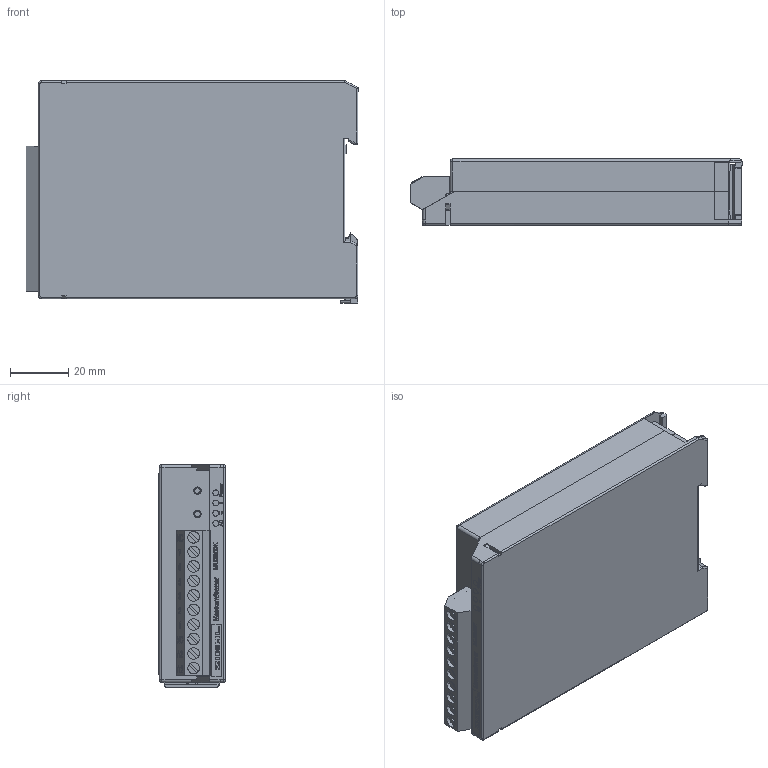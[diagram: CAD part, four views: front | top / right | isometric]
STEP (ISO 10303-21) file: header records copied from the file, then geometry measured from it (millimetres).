
FILE_DESCRIPTION (( 'STEP AP214' ), '1' );
FILE_NAME ('12600-1901-02_3D.STEP', '2019-01-22T09:36:20', ( '' ), ( '' ), 'SwSTEP 2.0', 'SolidWorks 2018', '' );
FILE_SCHEMA (( 'AUTOMOTIVE_DESIGN' ));
Length unit declared in the file: millimetre
Products named in the file (11): K-Unterteil 1045 1940 K-UT_3D^12600-1901-02_3D; Typenschild LED 12600-1202-01^12600-1901-02_3D; Typenschild Klemmen 12600-1204-00^12600-1901-02_3D; K-Deckel 1045 1920^12600-1901-02_3D; K-Leiterpklatte 60 lang^12600-1901-02_3D; pan head cross recess screw_din_ISO 7045 - M3 x 4 - Z --- 4N; 12600-1901-02_3D; Klemme 31147110^12600-1901-02_3D; Typenschild 12600-1203-03_UL^12600-1901-02_3D; K-Riegel^12600-1901-02_3D; Typenschild Set_Down^12600-1901-02_3D
Assembly tree (10 placements, depth 2):
  12600-1901-02_3D
    K-Unterteil 1045 1940 K-UT_3D^12600-1901-02_3D
    K-Deckel 1045 1920^12600-1901-02_3D
    K-Leiterpklatte 60 lang^12600-1901-02_3D
    K-Riegel^12600-1901-02_3D
    pan head cross recess screw_din_ISO 7045 - M3 x 4 - Z --- 4N
    Klemme 31147110^12600-1901-02_3D
    Typenschild Klemmen 12600-1204-00^12600-1901-02_3D
    Typenschild LED 12600-1202-01^12600-1901-02_3D
    Typenschild Set_Down^12600-1901-02_3D
    Typenschild 12600-1203-03_UL^12600-1901-02_3D
Bounding box: 114.29 x 22.9 x 76.65 mm (x, y, z)
Volume: 50131.4 mm3; surface area: 63624 mm2
Topology: 13 solids, 495 shells, 1684 faces, 6781 edges, 5674 vertices
Faces by surface type: plane 1208, cylinder 222, bspline 160, cone 40, torus 29, sphere 25
Entity records: 85795 total; most frequent: CARTESIAN_POINT 29140, ORIENTED_EDGE 9793, DIRECTION 8972, EDGE_CURVE 6757, VERTEX_POINT 5674, LINE 4796, VECTOR 4796, AXIS2_PLACEMENT_3D 2088
